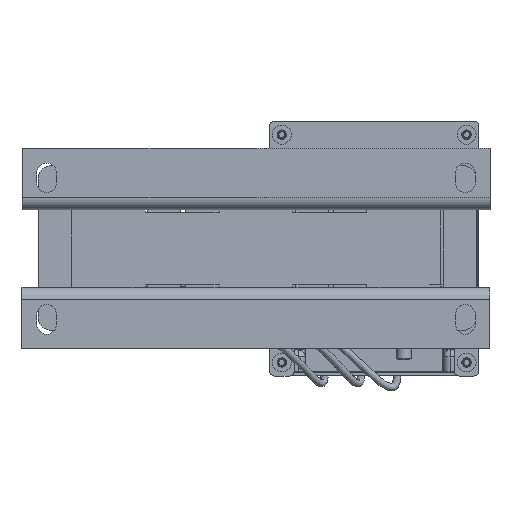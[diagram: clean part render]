
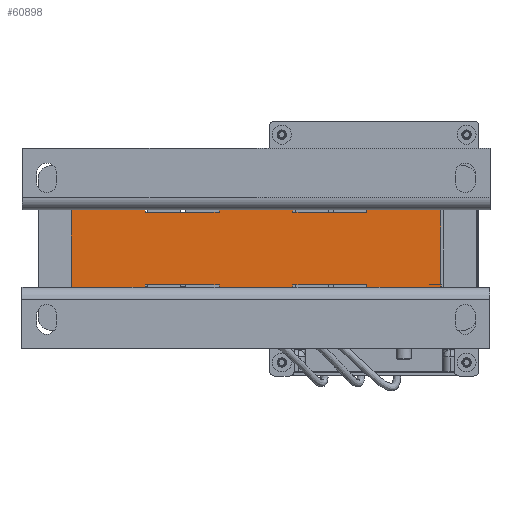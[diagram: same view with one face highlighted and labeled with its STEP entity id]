
A CAD part, front view. The second image highlights one B-rep face of the part: STEP entity #60898.
In plain terms, the highlighted planar face has unit normal (0, -1, 0).
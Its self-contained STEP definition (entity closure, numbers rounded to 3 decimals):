
#30254=CARTESIAN_POINT('',(-24.031,-105.424,-1.));
#30255=VERTEX_POINT('',#30254);
#30294=CARTESIAN_POINT('',(35.969,-105.424,-1.));
#30295=VERTEX_POINT('',#30294);
#30310=CARTESIAN_POINT('',(5.969,-105.424,-1.));
#30311=VERTEX_POINT('',#30310);
#30334=CARTESIAN_POINT('',(95.969,-105.424,-1.));
#30335=VERTEX_POINT('',#30334);
#30350=CARTESIAN_POINT('',(65.969,-105.424,-1.));
#30351=VERTEX_POINT('',#30350);
#30372=CARTESIAN_POINT('',(125.969,-105.424,-1.));
#30373=VERTEX_POINT('',#30372);
#30788=CARTESIAN_POINT('',(95.969,-105.424,-1.));
#30789=DIRECTION('',(1.0,0.0,0.0));
#30790=VECTOR('',#30789,30.0);
#30791=LINE('',#30788,#30790);
#30792=EDGE_CURVE('',#30335,#30373,#30791,.T.);
#30795=CARTESIAN_POINT('',(35.969,-105.424,-1.));
#30796=DIRECTION('',(1.0,0.0,0.0));
#30797=VECTOR('',#30796,30.0);
#30798=LINE('',#30795,#30797);
#30799=EDGE_CURVE('',#30295,#30351,#30798,.T.);
#30802=CARTESIAN_POINT('',(-24.031,-105.424,-1.));
#30803=DIRECTION('',(1.0,0.0,0.0));
#30804=VECTOR('',#30803,30.);
#30805=LINE('',#30802,#30804);
#30806=EDGE_CURVE('',#30255,#30311,#30805,.T.);
#31407=CARTESIAN_POINT('',(-24.031,-105.424,30.5));
#31408=VERTEX_POINT('',#31407);
#31447=CARTESIAN_POINT('',(35.969,-105.424,30.5));
#31448=VERTEX_POINT('',#31447);
#31457=CARTESIAN_POINT('',(5.969,-105.424,30.5));
#31458=VERTEX_POINT('',#31457);
#31489=CARTESIAN_POINT('',(125.969,-105.424,30.5));
#31490=VERTEX_POINT('',#31489);
#31527=CARTESIAN_POINT('',(95.969,-105.424,30.5));
#31528=VERTEX_POINT('',#31527);
#31537=CARTESIAN_POINT('',(65.969,-105.424,30.5));
#31538=VERTEX_POINT('',#31537);
#31926=CARTESIAN_POINT('',(5.969,-105.424,30.5));
#31927=DIRECTION('',(-1.0,0.0,0.0));
#31928=VECTOR('',#31927,30.);
#31929=LINE('',#31926,#31928);
#31930=EDGE_CURVE('',#31458,#31408,#31929,.T.);
#31933=CARTESIAN_POINT('',(65.969,-105.424,30.5));
#31934=DIRECTION('',(-1.0,0.0,0.0));
#31935=VECTOR('',#31934,30.0);
#31936=LINE('',#31933,#31935);
#31937=EDGE_CURVE('',#31538,#31448,#31936,.T.);
#31940=CARTESIAN_POINT('',(125.969,-105.424,30.5));
#31941=DIRECTION('',(-1.0,0.0,0.0));
#31942=VECTOR('',#31941,30.0);
#31943=LINE('',#31940,#31942);
#31944=EDGE_CURVE('',#31490,#31528,#31943,.T.);
#35506=CARTESIAN_POINT('',(125.969,-105.424,0.1));
#35507=VERTEX_POINT('',#35506);
#35516=CARTESIAN_POINT('',(121.491,-105.424,0.1));
#35517=VERTEX_POINT('',#35516);
#35518=CARTESIAN_POINT('',(121.491,-105.424,0.1));
#35519=DIRECTION('',(1.0,0.0,0.0));
#35520=VECTOR('',#35519,4.478);
#35521=LINE('',#35518,#35520);
#35522=EDGE_CURVE('',#35517,#35507,#35521,.T.);
#35553=CARTESIAN_POINT('',(121.491,-105.424,0.));
#35554=VERTEX_POINT('',#35553);
#35555=CARTESIAN_POINT('',(121.491,-105.424,0.));
#35556=DIRECTION('',(0.0,0.0,1.0));
#35557=VECTOR('',#35556,0.1);
#35558=LINE('',#35555,#35557);
#35559=EDGE_CURVE('',#35554,#35517,#35558,.T.);
#35617=CARTESIAN_POINT('',(125.969,-105.424,0.));
#35618=VERTEX_POINT('',#35617);
#35634=CARTESIAN_POINT('',(125.969,-105.424,0.));
#35635=DIRECTION('',(-1.0,0.0,0.0));
#35636=VECTOR('',#35635,4.478);
#35637=LINE('',#35634,#35636);
#35638=EDGE_CURVE('',#35618,#35554,#35637,.T.);
#35676=CARTESIAN_POINT('',(125.969,-105.424,0.));
#35677=DIRECTION('',(0.0,0.0,-1.0));
#35678=VECTOR('',#35677,1.);
#35679=LINE('',#35676,#35678);
#35680=EDGE_CURVE('',#35618,#30373,#35679,.T.);
#35747=CARTESIAN_POINT('',(125.969,-105.424,30.5));
#35748=DIRECTION('',(0.0,0.0,-1.0));
#35749=VECTOR('',#35748,30.4);
#35750=LINE('',#35747,#35749);
#35751=EDGE_CURVE('',#31490,#35507,#35750,.T.);
#43488=CARTESIAN_POINT('',(95.969,-105.424,0.));
#43489=VERTEX_POINT('',#43488);
#43490=CARTESIAN_POINT('',(95.969,-105.424,0.));
#43491=DIRECTION('',(0.0,0.0,-1.0));
#43492=VECTOR('',#43491,1.);
#43493=LINE('',#43490,#43492);
#43494=EDGE_CURVE('',#43489,#30335,#43493,.T.);
#43503=CARTESIAN_POINT('',(95.969,-105.424,29.5));
#43504=VERTEX_POINT('',#43503);
#43511=CARTESIAN_POINT('',(95.969,-105.424,30.5));
#43512=DIRECTION('',(0.0,0.0,-1.0));
#43513=VECTOR('',#43512,1.0);
#43514=LINE('',#43511,#43513);
#43515=EDGE_CURVE('',#31528,#43504,#43514,.T.);
#43870=CARTESIAN_POINT('',(65.969,-105.424,29.5));
#43871=VERTEX_POINT('',#43870);
#43878=CARTESIAN_POINT('',(95.969,-105.424,29.5));
#43879=DIRECTION('',(-1.0,0.0,0.0));
#43880=VECTOR('',#43879,30.0);
#43881=LINE('',#43878,#43880);
#43882=EDGE_CURVE('',#43504,#43871,#43881,.T.);
#51953=CARTESIAN_POINT('',(35.969,-105.424,0.));
#51954=VERTEX_POINT('',#51953);
#51955=CARTESIAN_POINT('',(35.969,-105.424,0.));
#51956=DIRECTION('',(0.0,0.0,-1.0));
#51957=VECTOR('',#51956,1.);
#51958=LINE('',#51955,#51957);
#51959=EDGE_CURVE('',#51954,#30295,#51958,.T.);
#51968=CARTESIAN_POINT('',(35.969,-105.424,29.5));
#51969=VERTEX_POINT('',#51968);
#51976=CARTESIAN_POINT('',(35.969,-105.424,30.5));
#51977=DIRECTION('',(0.0,0.0,-1.0));
#51978=VECTOR('',#51977,1.0);
#51979=LINE('',#51976,#51978);
#51980=EDGE_CURVE('',#31448,#51969,#51979,.T.);
#52254=CARTESIAN_POINT('',(5.969,-105.424,29.5));
#52255=VERTEX_POINT('',#52254);
#52262=CARTESIAN_POINT('',(35.969,-105.424,29.5));
#52263=DIRECTION('',(-1.0,0.0,0.0));
#52264=VECTOR('',#52263,30.0);
#52265=LINE('',#52262,#52264);
#52266=EDGE_CURVE('',#51969,#52255,#52265,.T.);
#52502=CARTESIAN_POINT('',(65.969,-105.424,30.5));
#52503=DIRECTION('',(0.0,0.0,-1.0));
#52504=VECTOR('',#52503,1.0);
#52505=LINE('',#52502,#52504);
#52506=EDGE_CURVE('',#31538,#43871,#52505,.T.);
#52510=CARTESIAN_POINT('',(65.969,-105.424,0.));
#52511=VERTEX_POINT('',#52510);
#52518=CARTESIAN_POINT('',(65.969,-105.424,0.));
#52519=DIRECTION('',(0.0,0.0,-1.0));
#52520=VECTOR('',#52519,1.0);
#52521=LINE('',#52518,#52520);
#52522=EDGE_CURVE('',#52511,#30351,#52521,.T.);
#52603=CARTESIAN_POINT('',(95.969,-105.424,0.));
#52604=DIRECTION('',(-1.0,0.0,0.0));
#52605=VECTOR('',#52604,30.0);
#52606=LINE('',#52603,#52605);
#52607=EDGE_CURVE('',#43489,#52511,#52606,.T.);
#52620=CARTESIAN_POINT('',(5.969,-105.424,0.));
#52621=VERTEX_POINT('',#52620);
#52622=CARTESIAN_POINT('',(35.969,-105.424,0.));
#52623=DIRECTION('',(-1.0,0.0,0.0));
#52624=VECTOR('',#52623,30.0);
#52625=LINE('',#52622,#52624);
#52626=EDGE_CURVE('',#51954,#52621,#52625,.T.);
#60295=CARTESIAN_POINT('',(-24.031,-105.424,30.5));
#60296=DIRECTION('',(0.0,0.0,-1.0));
#60297=VECTOR('',#60296,31.5);
#60298=LINE('',#60295,#60297);
#60299=EDGE_CURVE('',#31408,#30255,#60298,.T.);
#60797=CARTESIAN_POINT('',(5.969,-105.424,30.5));
#60798=DIRECTION('',(0.0,0.0,-1.0));
#60799=VECTOR('',#60798,1.0);
#60800=LINE('',#60797,#60799);
#60801=EDGE_CURVE('',#31458,#52255,#60800,.T.);
#60806=CARTESIAN_POINT('',(5.969,-105.424,0.));
#60807=DIRECTION('',(0.0,0.0,-1.0));
#60808=VECTOR('',#60807,1.0);
#60809=LINE('',#60806,#60808);
#60810=EDGE_CURVE('',#52621,#30311,#60809,.T.);
#60867=CARTESIAN_POINT('',(125.969,-105.424,0.));
#60868=DIRECTION('',(0.0,-1.0,0.0));
#60869=DIRECTION('',(0.0,0.0,-1.0));
#60870=AXIS2_PLACEMENT_3D('',#60867,#60868,#60869);
#60871=PLANE('',#60870);
#60872=ORIENTED_EDGE('',*,*,#35522,.T.);
#60873=ORIENTED_EDGE('',*,*,#35751,.F.);
#60874=ORIENTED_EDGE('',*,*,#31944,.T.);
#60875=ORIENTED_EDGE('',*,*,#43515,.T.);
#60876=ORIENTED_EDGE('',*,*,#43882,.T.);
#60877=ORIENTED_EDGE('',*,*,#52506,.F.);
#60878=ORIENTED_EDGE('',*,*,#31937,.T.);
#60879=ORIENTED_EDGE('',*,*,#51980,.T.);
#60880=ORIENTED_EDGE('',*,*,#52266,.T.);
#60881=ORIENTED_EDGE('',*,*,#60801,.F.);
#60882=ORIENTED_EDGE('',*,*,#31930,.T.);
#60883=ORIENTED_EDGE('',*,*,#60299,.T.);
#60884=ORIENTED_EDGE('',*,*,#30806,.T.);
#60885=ORIENTED_EDGE('',*,*,#60810,.F.);
#60886=ORIENTED_EDGE('',*,*,#52626,.F.);
#60887=ORIENTED_EDGE('',*,*,#51959,.T.);
#60888=ORIENTED_EDGE('',*,*,#30799,.T.);
#60889=ORIENTED_EDGE('',*,*,#52522,.F.);
#60890=ORIENTED_EDGE('',*,*,#52607,.F.);
#60891=ORIENTED_EDGE('',*,*,#43494,.T.);
#60892=ORIENTED_EDGE('',*,*,#30792,.T.);
#60893=ORIENTED_EDGE('',*,*,#35680,.F.);
#60894=ORIENTED_EDGE('',*,*,#35638,.T.);
#60895=ORIENTED_EDGE('',*,*,#35559,.T.);
#60896=EDGE_LOOP('',(#60872,#60873,#60874,#60875,#60876,#60877,#60878,#60879,#60880,#60881,#60882,#60883,#60884,#60885,#60886,#60887,#60888,#60889,#60890,#60891,#60892,#60893,#60894,#60895));
#60897=FACE_OUTER_BOUND('',#60896,.T.);
#60898=ADVANCED_FACE('',(#60897),#60871,.T.);
